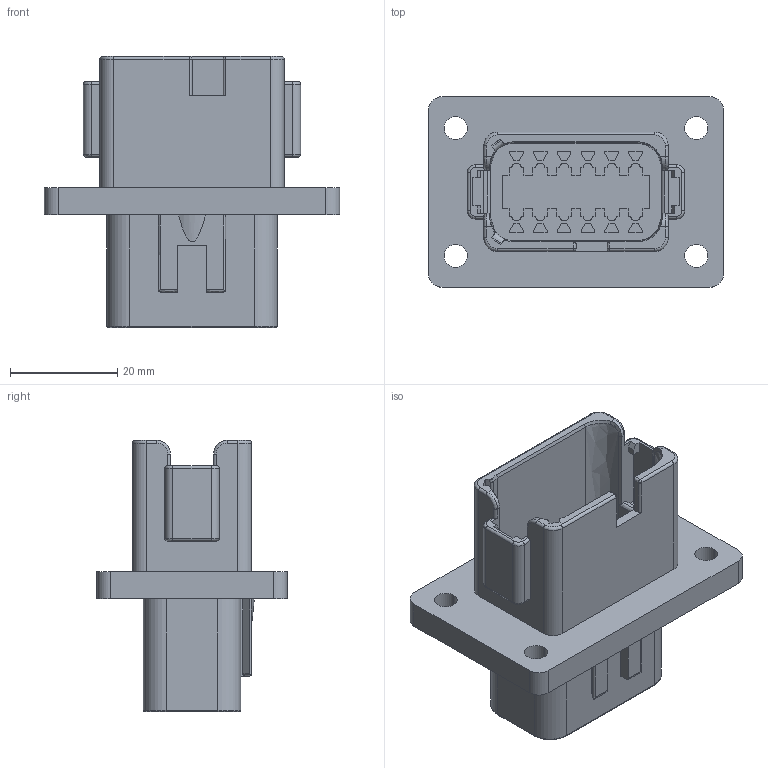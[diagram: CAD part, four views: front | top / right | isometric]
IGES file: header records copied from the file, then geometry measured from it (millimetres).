
Start section:  PTC IGES file: c-dt04-12pb-bl04-99-3d.igs
Global section: file name: c-dt04-12pb-bl04-99-3d.igs; native system: Pro/ENGINEER by Parametric Technology Corporation; preprocessor: 2011490; author: workeradm; organization: Unknown; units: millimetre
Bounding box: 55.12 x 35.56 x 50.62 mm (x, y, z)
Surface area: 12887.9 mm2 (no closed solid volume)
Topology: 0 solids, 0 shells, 637 faces, 3302 edges, 3302 vertices
Faces by surface type: bspline 394, revolution 243
